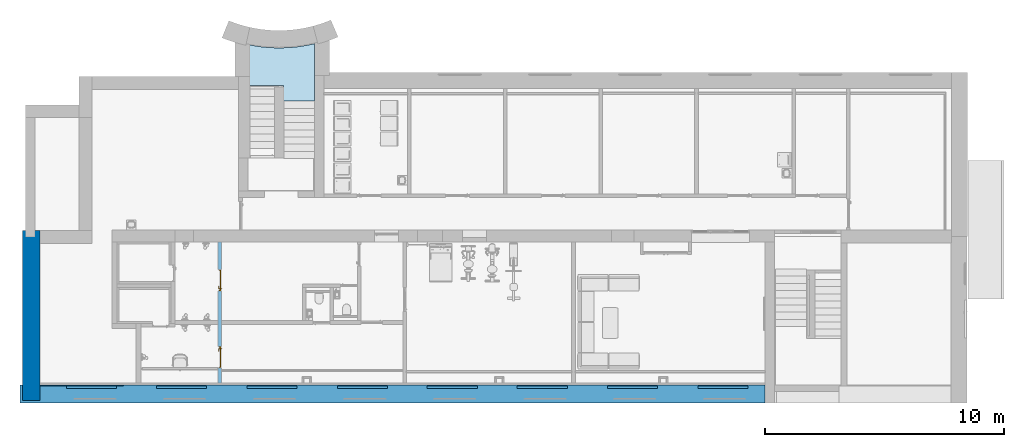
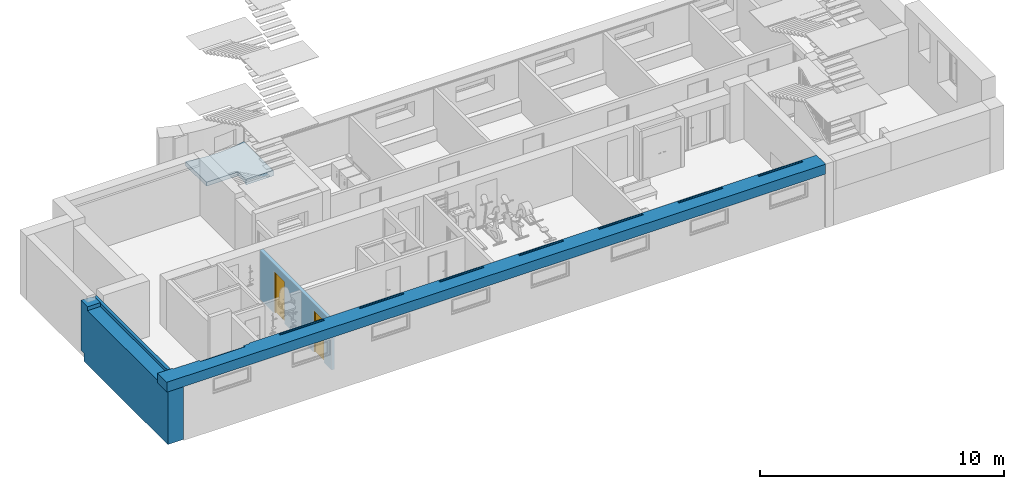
# One storey, part 10 of 23: 2 doors, 2 walls, 1 slab, 2 openings, 1 element without a shape of its own, plus 1 element that does not belong to this part.
"""IFC2X3 building model written with IfcOpenShell, lengths in millimetres."""

from ifc_helpers import new_model, entity, si_unit, converted_unit, derived_unit, direction, frame, frame_2d, origin, place, context, subcontext, project, spatial, rectangle, extrude, faceted_brep, source, transform, mapped, material, material_list, layer, layer_set, layer_usage, type_object, type_shapes, element, fill, aggregate, save


model = new_model("IFC2X3")

# Units and contexts
model_context = context("Model", 3, precision=0.01, world=origin(), true_north=direction((6.12303176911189e-17, 1.0)))
body_context = subcontext(model_context, "Body", "Model", "MODEL_VIEW")
ifc_project = project(units=[si_unit("LENGTHUNIT", "METRE", prefix="MILLI"), si_unit("AREAUNIT", "SQUARE_METRE"), si_unit("VOLUMEUNIT", "CUBIC_METRE"), converted_unit("PLANEANGLEUNIT", "DEGREE", entity("IfcRatioMeasure", 0.0174532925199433), si_unit("PLANEANGLEUNIT", "RADIAN"), dimensions=[0, 0, 0, 0, 0, 0, 0]), si_unit("MASSUNIT", "GRAM", prefix="KILO"), derived_unit("MASSDENSITYUNIT", [(si_unit("MASSUNIT", "GRAM", prefix="KILO"), 1), (si_unit("LENGTHUNIT", "METRE"), -3)]), si_unit("TIMEUNIT", "SECOND"), si_unit("FREQUENCYUNIT", "HERTZ"), si_unit("THERMODYNAMICTEMPERATUREUNIT", "DEGREE_CELSIUS"), derived_unit("THERMALTRANSMITTANCEUNIT", [(si_unit("MASSUNIT", "GRAM", prefix="KILO"), 1), (si_unit("THERMODYNAMICTEMPERATUREUNIT", "KELVIN"), -1), (si_unit("TIMEUNIT", "SECOND"), -3)]), derived_unit("VOLUMETRICFLOWRATEUNIT", [(si_unit("LENGTHUNIT", "METRE"), 3), (si_unit("TIMEUNIT", "SECOND"), -1)]), si_unit("ELECTRICCURRENTUNIT", "AMPERE"), si_unit("ELECTRICVOLTAGEUNIT", "VOLT"), si_unit("POWERUNIT", "WATT"), si_unit("FORCEUNIT", "NEWTON", prefix="KILO"), si_unit("ILLUMINANCEUNIT", "LUX"), si_unit("LUMINOUSFLUXUNIT", "LUMEN"), si_unit("LUMINOUSINTENSITYUNIT", "CANDELA"), derived_unit("USERDEFINED", [(si_unit("MASSUNIT", "GRAM", prefix="KILO"), -1), (si_unit("LENGTHUNIT", "METRE"), -2), (si_unit("TIMEUNIT", "SECOND"), 3), (si_unit("LUMINOUSFLUXUNIT", "LUMEN"), 1)]), derived_unit("LINEARVELOCITYUNIT", [(si_unit("LENGTHUNIT", "METRE"), 1), (si_unit("TIMEUNIT", "SECOND"), -1)]), si_unit("PRESSUREUNIT", "PASCAL"), derived_unit("USERDEFINED", [(si_unit("LENGTHUNIT", "METRE"), -2), (si_unit("MASSUNIT", "GRAM", prefix="KILO"), 1), (si_unit("TIMEUNIT", "SECOND"), -2)]), derived_unit("LINEARFORCEUNIT", [(si_unit("MASSUNIT", "GRAM", prefix="KILO"), 1), (si_unit("LENGTHUNIT", "METRE"), 1), (si_unit("TIMEUNIT", "SECOND"), -2), (si_unit("LENGTHUNIT", "METRE"), -1)]), derived_unit("PLANARFORCEUNIT", [(si_unit("MASSUNIT", "GRAM", prefix="KILO"), 1), (si_unit("LENGTHUNIT", "METRE"), 1), (si_unit("TIMEUNIT", "SECOND"), -2), (si_unit("LENGTHUNIT", "METRE"), -2)])], contexts=[model_context])

# Site, building, storey
site_placement = place(None, origin())
site = spatial("IfcSite", under=ifc_project, at=site_placement, Name="Default", CompositionType="ELEMENT")
building_placement = place(site_placement, origin())
building = spatial("IfcBuilding", under=site, at=building_placement, Name="SMA ARH", CompositionType="ELEMENT")
storey_placement = place(building_placement, frame((0.0, 0.0, -2800.0)))
storey = spatial("IfcBuildingStorey", under=building, at=storey_placement, Name="0 Sokkel", CompositionType="ELEMENT", Elevation=-2800.0)

# Stair, slab
stair_placement = place(storey_placement, origin())
stair = element("IfcStair", 1, at=stair_placement, inside=storey, Name="Cast-In-Place Stair:Stair", ObjectType="Cast-In-Place Stair:Cast-In-Place Stair", ShapeType="STRAIGHT_RUN_STAIR")
slab_type = type_object("IfcSlabType", Name="Monolithic Landing:300 mm Thickness", PredefinedType="LANDING")
slab_placement = place(stair_placement, frame((8818.40472776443, 11910.0, 0.0)))
slab = element("IfcSlab", 2, at=slab_placement, type_object=slab_type, Name="Cast-In-Place Stair:Stair:910648 Landing 1", ObjectType="Monolithic Landing:300 mm Thickness", PredefinedType="LANDING", context=body_context, shape_type="Brep", body=[
    faceted_brep([(839.336831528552, 2243.5736063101, 1430.0), (558.352694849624, 2271.62682141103, 1430.0), (278.916588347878, 2312.30273966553, 1430.0), (1.5952722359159, 2365.51886102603, 1430.0), (1.59527223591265, 645.0, 1430.0), (1501.59527223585, 645.0, 1430.0), (1501.59527223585, 129.984969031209, 1430.0), (1501.59527223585, 0.0, 1430.0), (2801.59527223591, 0.0, 1430.0), (2801.59527223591, 129.984969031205, 1430.0), (2801.59527223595, 2402.17231373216, 1430.0), (2525.76199890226, 2341.71511180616, 1430.0), (2247.48640056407, 2293.7384579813, 1430.0), (1967.33288365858, 2258.33965986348, 1430.0), (1685.86966347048, 2235.590514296, 1430.0), (1403.66761166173, 2225.53716173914, 1430.0), (1121.29909841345, 2228.19999268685, 1430.0), (1.5952722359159, 2365.51886102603, 1230.0), (1.59527223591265, 645.0, 1230.0), (1501.59527223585, 645.0, 1230.0), (1501.59527223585, 129.984969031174, 1230.0), (1501.59527223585, 0.0, 1163.08181223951), (1501.59527223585, 0.0, 1275.55555555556), (2801.59527223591, 0.0, 1275.55555555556), (2801.59527223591, 0.0, 1163.08181223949), (2801.59527223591, 129.984969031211, 1230.0), (2801.59527223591, 2402.17231373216, 1230.0), (2525.76199890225, 2341.71511180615, 1230.0), (1967.33288365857, 2258.33965986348, 1230.0), (1685.86966347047, 2235.59051429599, 1230.0), (2247.48640056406, 2293.7384579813, 1230.0), (1403.66761166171, 2225.53716173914, 1230.0), (1121.29909841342, 2228.19999268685, 1230.0), (839.336831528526, 2243.57360631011, 1230.0), (278.916588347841, 2312.30273966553, 1230.0), (558.352694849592, 2271.62682141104, 1230.0)], [[[0, 1, 2, 3, 4, 5, 6, 7, 8, 9, 10, 11, 12, 13, 14, 15, 16]], [[4, 3, 17, 18]], [[5, 4, 18, 19]], [[6, 5, 19, 20, 21, 22, 7]], [[9, 8, 23, 24, 25, 26, 10]], [[26, 27, 11, 10]], [[28, 29, 14, 13]], [[30, 28, 13, 12]], [[27, 30, 12, 11]], [[31, 15, 14, 29]], [[32, 33, 0, 16]], [[34, 17, 3, 2]], [[35, 34, 2, 1]], [[33, 35, 1, 0]], [[31, 32, 16, 15]], [[25, 20, 19, 18, 17, 34, 35, 33, 32, 31, 29, 28, 30, 27, 26]], [[8, 7, 22, 21, 24, 23]], [[21, 20, 25, 24]]]),
])
aggregate(stair, [slab])

# Walls
ifc_material_1 = material(Name="_ol.olev sein")
ifc_layer_1 = layer(ifc_material_1, 750.0)
ifc_layer_set_1 = layer_set([ifc_layer_1], Name="Basic Wall:Generic - 750mm")
wall_type_1 = type_object("IfcWallType", Name="Basic Wall:Generic - 750mm", PredefinedType="STANDARD", material=ifc_layer_set_1)
wall_1_placement = place(storey_placement, frame((-230.0, 6510.0, -400.0), z_axis=(0.0, 0.0, 1.0), x_axis=(0.0, -1.0, 0.0)))
element("IfcWall", 3, at=wall_1_placement, inside=storey, type_object=wall_type_1, material=ifc_material_1, Name="Basic Wall:Generic - 750mm", ObjectType="Basic Wall:Generic - 750mm", context=body_context, shape_type="Brep", body=[
    faceted_brep([(275.0, -375.0, 0.0), (7125.0, -375.0, 0.0), (7125.0, -375.0, 2895.78856704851), (6460.0, -375.0, 2895.78856704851), (6460.0, -375.0, 2705.79339714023), (550.0, -375.0, 2705.79339714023), (550.0, -375.0, 2895.78856704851), (0.0, -375.0, 2895.78856704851), (0.0, -375.0, 400.0), (275.0, -375.0, 400.0), (7125.0, 375.0, 0.0), (275.0, 375.0, 0.0), (275.0, 375.0, 400.0), (0.0, 375.0, 400.0), (0.0, 375.0, 2870.0), (6510.0, 375.0, 2870.0), (6510.0, 375.0, 2895.78856704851), (7125.0, 375.0, 2895.78856704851), (7125.0, 375.0, 2705.79339714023), (275.0, -230.0, 0.0), (275.0, 150.0, 0.0), (6510.0, 230.0, 2895.78856704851), (6460.0, 230.0, 2895.78856704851), (275.0, -230.0, 400.0), (275.0, 150.0, 400.0), (0.0, -230.0, 400.0), (0.0, 150.0, 400.0), (0.0, 130.0, 2895.78856704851), (0.0, 130.0, 2870.0), (550.0, 230.0, 2705.79339714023), (6460.0, 230.0, 2705.79339714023), (6460.0, 230.0, 2870.0), (550.0, 230.0, 2870.0), (550.0, 230.0, 2895.78856704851), (80.0, 130.0, 2870.0), (80.0, 230.0, 2870.0), (6510.0, 230.0, 2870.0), (80.0, 230.0, 2895.78856704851), (80.0, 130.0, 2895.78856704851)], [[[0, 1, 2, 3, 4, 5, 6, 7, 8, 9]], [[10, 11, 12, 13, 14, 15, 16, 17, 18]], [[1, 0, 19, 20, 11, 10]], [[2, 17, 16, 21, 22, 3]], [[11, 20, 19, 0, 9, 23, 24, 12]], [[13, 12, 24, 23, 9, 8, 25, 26]], [[8, 7, 27, 28, 14, 13, 26, 25]], [[2, 1, 10, 18, 17]], [[29, 30, 31, 32]], [[30, 29, 5, 4]], [[31, 30, 4, 3, 22]], [[29, 32, 33, 6, 5]], [[34, 35, 32, 31, 36, 15, 14, 28]], [[35, 37, 33, 32]], [[35, 34, 38, 37]], [[34, 28, 27, 38]], [[15, 36, 21, 16]], [[21, 36, 31, 22]], [[27, 7, 6, 33, 37, 38]]]),
])
wall_2_placement = place(storey_placement, frame((-700.0, -325.0, 2305.79339714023)))
element("IfcWall", 4, at=wall_2_placement, inside=storey, type_object=wall_type_1, Name="Basic Wall:Generic - 750mm", ObjectType="Basic Wall:Generic - 750mm", context=body_context, shape_type="Brep", body=[
    faceted_brep([(0.0, -375.0, 0.0), (31150.0, -375.0, 0.0), (31150.0, -375.0, 494.206602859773), (700.0, -375.0, 494.206602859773), (0.0, -375.0, 494.206602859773), (31150.0, 375.0, 0.0), (845.0, 375.0, 0.0), (700.0, 375.0, 0.0), (0.0, 375.0, 0.0), (0.0, 375.0, 494.206602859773), (700.0, 375.0, 494.206602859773), (700.0, 375.0, 164.206602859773), (4323.24999999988, 375.0, 164.206602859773), (4323.24999999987, 375.0, 494.206602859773), (31150.0, 375.0, 494.206602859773), (31150.0, 375.0, 231.28537110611), (31150.0, -290.0, 0.0), (4323.24999999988, 325.0, 494.206602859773), (4040.0, 325.0, 494.206602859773), (4040.0, 225.0, 494.206602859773), (1941.58991999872, 225.0, 494.206602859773), (1941.58991999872, 325.0, 494.206602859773), (700.0, 325.0, 494.206602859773), (30430.0, 225.0, 494.206602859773), (28331.5899199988, 225.0, 494.206602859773), (28331.5899199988, 325.0, 494.206602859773), (30430.0, 325.0, 494.206602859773), (26645.0, 225.0, 494.206602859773), (24546.5899199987, 225.0, 494.206602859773), (24546.5899199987, 325.0, 494.206602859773), (26645.0, 325.0, 494.206602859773), (22880.0, 225.0, 494.206602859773), (20781.5899199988, 225.0, 494.206602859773), (20781.5899199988, 325.0, 494.206602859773), (22880.0, 325.0, 494.206602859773), (19120.0, 225.0, 494.206602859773), (17021.5899199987, 225.0, 494.206602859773), (17021.5899199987, 325.0, 494.206602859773), (19120.0, 325.0, 494.206602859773), (15360.0, 225.0, 494.206602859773), (13261.5899199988, 225.0, 494.206602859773), (13261.5899199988, 325.0, 494.206602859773), (15360.0, 325.0, 494.206602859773), (11580.0, 225.0, 494.206602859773), (9481.58991999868, 225.0, 494.206602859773), (9481.58991999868, 325.0, 494.206602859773), (11580.0, 325.0, 494.206602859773), (7800.0, 225.0, 494.206602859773), (5701.58991999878, 225.0, 494.206602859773), (5701.58991999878, 325.0, 494.206602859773), (7800.0, 325.0, 494.206602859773), (700.0, 325.0, 164.206602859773), (4323.24999999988, 325.0, 164.206602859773), (1941.58991999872, 325.0, 433.156602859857), (4040.0, 325.0, 433.156602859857), (30430.0, 225.0, 433.156602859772), (28331.5899199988, 225.0, 433.156602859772), (28331.5899199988, 325.0, 433.156602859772), (30430.0, 325.0, 433.156602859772), (26645.0, 225.0, 433.156602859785), (24546.5899199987, 225.0, 433.156602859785), (24546.5899199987, 325.0, 433.156602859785), (26645.0, 325.0, 433.156602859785), (22880.0, 225.0, 433.156602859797), (20781.5899199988, 225.0, 433.156602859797), (20781.5899199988, 325.0, 433.156602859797), (22880.0, 325.0, 433.156602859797), (19120.0, 225.0, 433.156602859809), (17021.5899199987, 225.0, 433.156602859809), (17021.5899199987, 325.0, 433.156602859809), (19120.0, 325.0, 433.156602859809), (15360.0, 225.0, 433.156602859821), (13261.5899199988, 225.0, 433.156602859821), (13261.5899199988, 325.0, 433.156602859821), (15360.0, 325.0, 433.156602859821), (11580.0, 225.0, 433.156602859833), (9481.58991999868, 225.0, 433.156602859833), (9481.58991999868, 325.0, 433.156602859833), (11580.0, 325.0, 433.156602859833), (7800.0, 225.0, 433.156602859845), (5701.58991999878, 225.0, 433.156602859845), (5701.58991999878, 325.0, 433.156602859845), (7800.0, 325.0, 433.156602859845), (4040.0, 225.0, 433.156602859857), (1941.58991999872, 225.0, 433.156602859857)], [[[0, 1, 2, 3, 4]], [[5, 6, 7, 8, 9, 10, 11, 12, 13, 14, 15]], [[1, 0, 8, 7, 6, 5, 16]], [[4, 3, 2, 14, 13, 17, 18, 19, 20, 21, 22, 10, 9], [23, 24, 25, 26], [27, 28, 29, 30], [31, 32, 33, 34], [35, 36, 37, 38], [39, 40, 41, 42], [43, 44, 45, 46], [47, 48, 49, 50]], [[2, 1, 16, 5, 15, 14]], [[51, 52, 12, 11]], [[51, 11, 10, 22]], [[52, 51, 22, 21, 53, 54, 18, 17]], [[0, 4, 9, 8]], [[55, 56, 24, 23]], [[57, 58, 26, 25]], [[56, 57, 25, 24]], [[56, 55, 58, 57]], [[58, 55, 23, 26]], [[59, 60, 28, 27]], [[61, 62, 30, 29]], [[60, 61, 29, 28]], [[60, 59, 62, 61]], [[62, 59, 27, 30]], [[63, 64, 32, 31]], [[65, 66, 34, 33]], [[64, 65, 33, 32]], [[64, 63, 66, 65]], [[66, 63, 31, 34]], [[67, 68, 36, 35]], [[69, 70, 38, 37]], [[68, 69, 37, 36]], [[68, 67, 70, 69]], [[70, 67, 35, 38]], [[71, 72, 40, 39]], [[73, 74, 42, 41]], [[72, 73, 41, 40]], [[72, 71, 74, 73]], [[74, 71, 39, 42]], [[75, 76, 44, 43]], [[77, 78, 46, 45]], [[76, 77, 45, 44]], [[76, 75, 78, 77]], [[78, 75, 43, 46]], [[79, 80, 48, 47]], [[81, 82, 50, 49]], [[80, 81, 49, 48]], [[80, 79, 82, 81]], [[82, 79, 47, 50]], [[83, 84, 20, 19]], [[84, 53, 21, 20]], [[84, 83, 54, 53]], [[54, 83, 19, 18]], [[12, 52, 17, 13]]]),
])

# Wall, openings, doors
ifc_material_2 = material(Name="EST. Müüritis. Väikeplokk. Kergkruusplokk")
ifc_layer_2 = layer(ifc_material_2, 150.0)
ifc_layer_set_2 = layer_set([ifc_layer_2], Name="Basic Wall:SS-01_ 150mm soklikorruse seinad")
ifc_layer_usage = layer_usage(ifc_layer_set_2, "AXIS2", "NEGATIVE", 75.0)
wall_type_2 = type_object("IfcWallType", Name="Basic Wall:SS-01_ 150mm soklikorruse seinad", PredefinedType="STANDARD", material=ifc_layer_set_2)
wall_3_placement = place(storey_placement, frame((7644.97172272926, 6010.0, 0.0), z_axis=(0.0, 0.0, 1.0), x_axis=(0.0, -1.0, 0.0)))
wall_3 = element("IfcWallStandardCase", 5, at=wall_3_placement, inside=storey, type_object=wall_type_2, material=ifc_layer_usage, Name="Basic Wall:SS-01_ 150mm soklikorruse seinad", ObjectType="Basic Wall:SS-01_ 150mm soklikorruse seinad", context=body_context, shape_type="SweptSolid", body=[
    extrude(rectangle(XDim=5875.00000000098, YDim=150.000000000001, at=frame_2d((2937.50000000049, -2.1316282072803e-14), x_axis=(-1.0, 0.0))), origin(), (0.0, 0.0, 1.0), 2450.0),
])
opening_1_placement = place(wall_3_placement, frame((1140.0, -75.0, 0.0)))
opening_1 = element("IfcOpeningElement", 6, at=opening_1_placement, cuts=wall_3, Name="SMA_D01, 1-poolne:SU-KL-02 - 900x2100:1", ObjectType="Opening", context=body_context, shape_type="SweptSolid", body=[
    extrude(rectangle(XDim=2099.99999999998, YDim=900.0, at=frame_2d((1049.99999999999, 450.0), x_axis=(1.0, 0.0))), frame((0.0, 0.0, 0.0), z_axis=(0.0, 1.0, 0.0), x_axis=(0.0, 0.0, 1.0)), (0.0, 0.0, 1.0), 150.0),
])
opening_2_placement = place(wall_3_placement, frame((4355.0, -75.0, 0.0)))
opening_2 = element("IfcOpeningElement", 7, at=opening_2_placement, cuts=wall_3, Name="SMA_D01, 1-poolne:SU-KL-02 - 900x2100:1", ObjectType="Opening", context=body_context, shape_type="SweptSolid", body=[
    extrude(rectangle(XDim=2099.99999999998, YDim=900.0, at=frame_2d((1049.99999999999, 450.0), x_axis=(1.0, 0.0))), frame((0.0, 0.0, 0.0), z_axis=(0.0, 1.0, 0.0), x_axis=(0.0, 0.0, 1.0)), (0.0, 0.0, 1.0), 150.0),
])
ifc_material_3 = material(Name="EST. Metall. Alumiinium. Värvitud. RAL7023 (Concrete grey)")
ifc_material_4 = material(Name="EST. Klaas. 3x. Default")
ifc_material_5 = material(Name="<Unnamed>")
ifc_material_list_1 = material_list([ifc_material_4, ifc_material_5, ifc_material_5, ifc_material_3, ifc_material_3, ifc_material_5, ifc_material_3])
door_style_1 = type_object("IfcDoorStyle", Name="SMA_D01, 1-poolne:SU-KL-02 - 900x2100", ConstructionType="NOTDEFINED", OperationType="NOTDEFINED", ParameterTakesPrecedence=False, Sizeable=False, material=ifc_material_list_1)
shared_shape_1 = source(origin(), body_context, "Body", "Brep", [
    faceted_brep([(110.0, 40.0, 1112.5), (110.0, 78.0, 1112.5), (85.0, 78.0, 1112.5), (85.0, 35.0, 1112.5), (205.0, 35.0, 1112.5), (205.0, 40.0, 1112.5), (110.0, 40.0, 1087.5), (205.0, 40.0, 1087.5), (205.0, 35.0, 1087.5), (85.0, 35.0, 1087.5), (85.0, 78.0, 1087.5), (110.0, 78.0, 1087.5)], [[[0, 1, 2, 3, 4, 5]], [[6, 7, 8, 9, 10, 11]], [[1, 0, 6, 11]], [[2, 1, 11, 10]], [[3, 2, 10, 9]], [[4, 3, 9, 8]], [[5, 4, 8, 7]], [[0, 5, 7, 6]]]),
    faceted_brep([(122.5, 78.0, 1137.5), (122.5, 80.0, 1137.5), (72.5000000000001, 80.0, 1137.5), (72.5000000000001, 78.0, 1137.5), (122.5, 78.0, 1017.5), (72.5000000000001, 78.0, 1017.5), (72.5000000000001, 80.0, 1017.5), (122.5, 80.0, 1017.5)], [[[0, 1, 2, 3]], [[4, 5, 6, 7]], [[1, 0, 4, 7]], [[2, 1, 7, 6]], [[3, 2, 6, 5]], [[0, 3, 5, 4]]]),
    faceted_brep([(110.0, 170.0, 1112.5), (205.0, 170.0, 1112.5), (205.0, 175.0, 1112.5), (85.0, 175.0, 1112.5), (85.0, 132.0, 1112.5), (110.0, 132.0, 1112.5), (110.0, 170.0, 1087.5), (110.0, 132.0, 1087.5), (85.0, 132.0, 1087.5), (85.0, 175.0, 1087.5), (205.0, 175.0, 1087.5), (205.0, 170.0, 1087.5)], [[[0, 1, 2, 3, 4, 5]], [[6, 7, 8, 9, 10, 11]], [[5, 7, 6, 0]], [[4, 8, 7, 5]], [[3, 9, 8, 4]], [[2, 10, 9, 3]], [[1, 11, 10, 2]], [[0, 6, 11, 1]]]),
    faceted_brep([(122.5, 132.0, 1137.5), (72.5000000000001, 132.0, 1137.5), (72.5000000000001, 130.0, 1137.5), (122.5, 130.0, 1137.5), (122.5, 132.0, 1017.5), (122.5, 130.0, 1017.5), (72.5000000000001, 130.0, 1017.5), (72.5000000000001, 132.0, 1017.5)], [[[0, 1, 2, 3]], [[4, 5, 6, 7]], [[3, 5, 4, 0]], [[2, 6, 5, 3]], [[1, 7, 6, 2]], [[0, 4, 7, 1]]]),
    faceted_brep([(890.0, 40.0, 0.0), (850.0, 40.0, 0.0), (850.0, 80.0, 0.0), (865.0, 80.0, 0.0), (865.0, 130.0, 0.0), (890.0, 130.0, 0.0), (890.0, 40.0, 2090.0), (10.0, 40.0, 2090.0), (10.0, 40.0, 0.0), (50.0, 40.0, 0.0), (50.0, 40.0, 2050.0), (850.0, 40.0, 2050.0), (850.0, 80.0, 2050.0), (50.0, 80.0, 2050.0), (50.0, 80.0, 0.0), (35.0, 80.0, 0.0), (35.0, 80.0, 2065.0), (865.0, 80.0, 2065.0), (865.0, 130.0, 2065.0), (35.0, 130.0, 2065.0), (35.0, 130.0, 0.0), (10.0, 130.0, 0.0), (10.0, 130.0, 2090.0), (890.0, 130.0, 2090.0)], [[[0, 1, 2, 3, 4, 5]], [[1, 0, 6, 7, 8, 9, 10, 11]], [[2, 1, 11, 12]], [[3, 2, 12, 13, 14, 15, 16, 17]], [[4, 3, 17, 18]], [[5, 4, 18, 19, 20, 21, 22, 23]], [[0, 5, 23, 6]], [[8, 7, 22, 21]], [[9, 8, 21, 20, 15, 14]], [[10, 9, 14, 13]], [[16, 15, 20, 19]], [[11, 10, 13, 12]], [[17, 16, 19, 18]], [[7, 6, 23, 22]]]),
    faceted_brep([(35.0, 80.0, 2065.0), (35.0, 80.0, 20.0), (865.0, 80.0, 20.0), (865.0, 80.0, 2065.0), (35.0, 130.0, 2065.0), (865.0, 130.0, 2065.0), (865.0, 130.0, 20.0), (35.0, 130.0, 20.0)], [[[0, 1, 2, 3]], [[4, 5, 6, 7]], [[1, 0, 4, 7]], [[2, 1, 7, 6]], [[3, 2, 6, 5]], [[0, 3, 5, 4]]]),
])
type_shapes(door_style_1, [shared_shape_1])
door_1_placement = place(opening_2_placement, origin())
door_1 = element("IfcDoor", 8, at=door_1_placement, inside=storey, type_object=door_style_1, material=ifc_material_3, Name="SMA_D01, 1-poolne:SU-KL-02 - 900x2100", ObjectType="SMA_D01, 1-poolne:SU-KL-02 - 900x2100", OverallHeight=2099.99999999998, OverallWidth=900.0, context=body_context, shape_type="MappedRepresentation", body=[
    mapped(shared_shape_1, transform((0.0, 0.0, 0.0), scale=1.0)),
])
fill(opening_2, door_1)
ifc_material_list_2 = material_list([ifc_material_5, ifc_material_4, ifc_material_5, ifc_material_3, ifc_material_3, ifc_material_3, ifc_material_5])
door_style_2 = type_object("IfcDoorStyle", Name="SMA_D01, 1-poolne:SU-KL-02 - 900x2100", ConstructionType="NOTDEFINED", OperationType="NOTDEFINED", ParameterTakesPrecedence=False, Sizeable=False, material=ifc_material_list_2)
shared_shape_2 = source(origin(), body_context, "Body", "Brep", [
    faceted_brep([(790.0, 40.0, 1112.5), (695.0, 40.0, 1112.5), (695.0, 35.0, 1112.5), (815.0, 35.0, 1112.5), (815.0, 78.0, 1112.5), (790.0, 78.0, 1112.5), (790.0, 40.0, 1087.5), (790.0, 78.0, 1087.5), (815.0, 78.0, 1087.5), (815.0, 35.0, 1087.5), (695.0, 35.0, 1087.5), (695.0, 40.0, 1087.5)], [[[0, 1, 2, 3, 4, 5]], [[6, 7, 8, 9, 10, 11]], [[5, 7, 6, 0]], [[4, 8, 7, 5]], [[3, 9, 8, 4]], [[2, 10, 9, 3]], [[1, 11, 10, 2]], [[0, 6, 11, 1]]]),
    faceted_brep([(777.500000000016, 78.0, 1137.5), (827.500000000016, 78.0, 1137.5), (827.500000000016, 80.0, 1137.5), (777.500000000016, 80.0, 1137.5), (777.500000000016, 78.0, 1017.5), (777.500000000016, 80.0, 1017.5), (827.500000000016, 80.0, 1017.5), (827.500000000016, 78.0, 1017.5)], [[[0, 1, 2, 3]], [[4, 5, 6, 7]], [[3, 5, 4, 0]], [[2, 6, 5, 3]], [[1, 7, 6, 2]], [[0, 4, 7, 1]]]),
    faceted_brep([(790.0, 170.0, 1112.5), (790.0, 132.0, 1112.5), (815.0, 132.0, 1112.5), (815.0, 175.0, 1112.5), (695.0, 175.0, 1112.5), (695.0, 170.0, 1112.5), (790.0, 170.0, 1087.5), (695.0, 170.0, 1087.5), (695.0, 175.0, 1087.5), (815.0, 175.0, 1087.5), (815.0, 132.0, 1087.5), (790.0, 132.0, 1087.5)], [[[0, 1, 2, 3, 4, 5]], [[6, 7, 8, 9, 10, 11]], [[1, 0, 6, 11]], [[2, 1, 11, 10]], [[3, 2, 10, 9]], [[4, 3, 9, 8]], [[5, 4, 8, 7]], [[0, 5, 7, 6]]]),
    faceted_brep([(777.500000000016, 132.0, 1137.5), (777.500000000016, 130.0, 1137.5), (827.500000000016, 130.0, 1137.5), (827.500000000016, 132.0, 1137.5), (777.500000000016, 132.0, 1017.5), (827.500000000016, 132.0, 1017.5), (827.500000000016, 130.0, 1017.5), (777.500000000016, 130.0, 1017.5)], [[[0, 1, 2, 3]], [[4, 5, 6, 7]], [[1, 0, 4, 7]], [[2, 1, 7, 6]], [[3, 2, 6, 5]], [[0, 3, 5, 4]]]),
    faceted_brep([(10.0, 40.0, 0.0), (10.0, 130.0, 0.0), (35.0, 130.0, 0.0), (35.0, 80.0, 0.0), (50.0, 80.0, 0.0), (50.0, 40.0, 0.0), (50.0, 40.0, 2050.0), (850.0, 40.0, 2050.0), (850.0, 40.0, 0.0), (890.0, 40.0, 0.0), (890.0, 40.0, 2090.0), (10.0, 40.0, 2090.0), (50.0, 80.0, 2050.0), (35.0, 80.0, 2065.0), (865.0, 80.0, 2065.0), (865.0, 80.0, 0.0), (850.0, 80.0, 0.0), (850.0, 80.0, 2050.0), (35.0, 130.0, 2065.0), (10.0, 130.0, 2090.0), (890.0, 130.0, 2090.0), (890.0, 130.0, 0.0), (865.0, 130.0, 0.0), (865.0, 130.0, 2065.0)], [[[0, 1, 2, 3, 4, 5]], [[5, 6, 7, 8, 9, 10, 11, 0]], [[4, 12, 6, 5]], [[3, 13, 14, 15, 16, 17, 12, 4]], [[2, 18, 13, 3]], [[1, 19, 20, 21, 22, 23, 18, 2]], [[0, 11, 19, 1]], [[9, 21, 20, 10]], [[8, 16, 15, 22, 21, 9]], [[7, 17, 16, 8]], [[14, 23, 22, 15]], [[6, 12, 17, 7]], [[13, 18, 23, 14]], [[10, 20, 19, 11]]]),
    faceted_brep([(865.0, 80.0, 2065.0), (35.0, 80.0, 2065.0), (35.0, 80.0, 20.0), (865.0, 80.0, 20.0), (865.0, 130.0, 2065.0), (865.0, 130.0, 20.0), (35.0, 130.0, 20.0), (35.0, 130.0, 2065.0)], [[[0, 1, 2, 3]], [[4, 5, 6, 7]], [[3, 5, 4, 0]], [[2, 6, 5, 3]], [[1, 7, 6, 2]], [[0, 4, 7, 1]]]),
])
type_shapes(door_style_2, [shared_shape_2])
door_2_placement = place(opening_1_placement, origin())
door_2 = element("IfcDoor", 9, at=door_2_placement, inside=storey, type_object=door_style_2, material=ifc_material_3, Name="SMA_D01, 1-poolne:SU-KL-02 - 900x2100", ObjectType="SMA_D01, 1-poolne:SU-KL-02 - 900x2100", OverallHeight=2099.99999999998, OverallWidth=900.0, context=body_context, shape_type="MappedRepresentation", body=[
    mapped(shared_shape_2, transform((0.0, 0.0, 0.0), scale=1.0)),
])
fill(opening_1, door_2)

save(model, "model.ifc")
